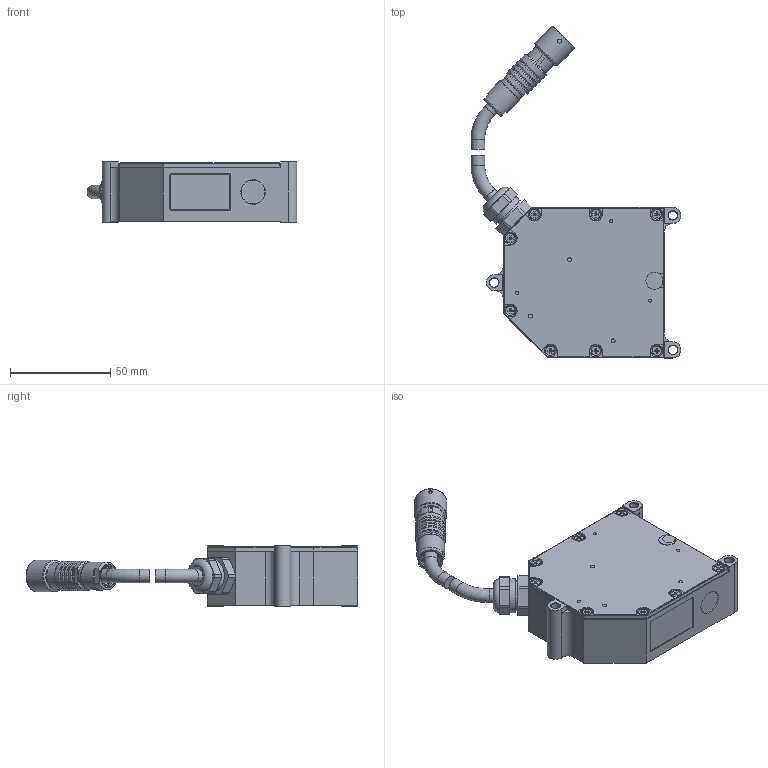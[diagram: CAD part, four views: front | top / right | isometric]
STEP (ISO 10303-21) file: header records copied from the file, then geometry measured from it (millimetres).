
FILE_DESCRIPTION (( 'STEP AP214' ), '1' );
FILE_NAME ('ILD1750_Groesse_S.STEP', '2017-09-29T08:19:56', ( '' ), ( '' ), 'SwSTEP 2.0', 'SolidWorks 2016', '' );
FILE_SCHEMA (( 'AUTOMOTIVE_DESIGN' ));
Length unit declared in the file: millimetre
Products named in the file (1): ILD1750_Groesse_S
Bounding box: 104.55 x 165.36 x 30 mm (x, y, z)
Volume: 178486.6 mm3; surface area: 40430.3 mm2
Topology: 4 solids, 58 shells, 1700 faces, 4161 edges, 2599 vertices
Faces by surface type: plane 820, cylinder 529, cone 271, bspline 50, torus 18, sphere 12
Full cylindrical faces by diameter (mm): 0.298 x1, 0.355 x1, 0.72 x14, 0.85 x14, 1.2 x56, 1.24 x42, 1.4 x14, 1.42 x14, 1.6 x3, 2 x1, 2.05 x9, 2.2 x1, 2.5 x8, 2.8 x2, 2.9 x9, 4.5 x4, 4.7 x8, 6.8 x4, 7 x2, 7.5 x1, 7.6 x1, 8.5 x1, 8.6 x1, 8.8 x1, 8.9 x2, 9.4 x1, 9.6 x1, 9.9 x1, 9.95 x1, 10 x1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
Entity records: 71393 total; most frequent: CARTESIAN_POINT 16307, DIRECTION 7538, ORIENTED_EDGE 6952, EDGE_CURVE 3476, AXIS2_PLACEMENT_3D 2922, VERTEX_POINT 2348, EDGE_LOOP 2262, FACE_OUTER_BOUND 1992
